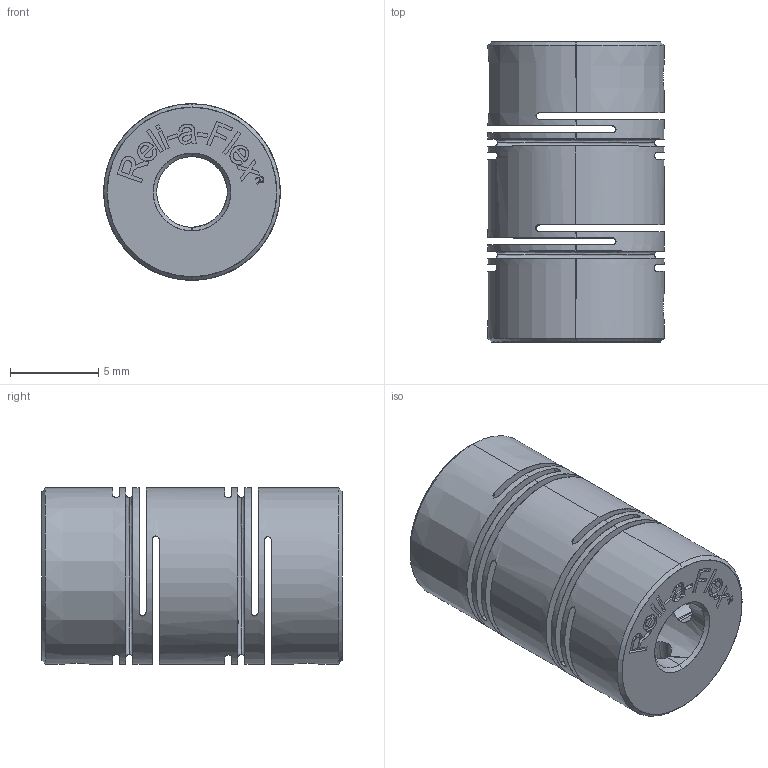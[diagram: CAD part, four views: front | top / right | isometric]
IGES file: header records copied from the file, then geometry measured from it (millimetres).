
Start section: SolidWorks IGES file using analytic representation for surfaces
Global section: file name: C:\Users\render\Documents\CAD Files\Reli-a-flex\Miniature Reli-a-Flex Couplings (6,8,10)\RCLA10\RCLA10-4-4.IGS; native system: SolidWorks 2011; preprocessor: SolidWorks 2011; author: render; date: 120426.142909; units: millimetre
Bounding box: 10 x 17 x 10 mm (x, y, z)
Surface area: 1652.9 mm2 (no closed solid volume)
Topology: 0 solids, 0 shells, 212 faces, 2858 edges, 2858 vertices
Faces by surface type: bspline 136, revolution 76
